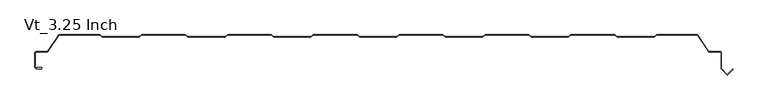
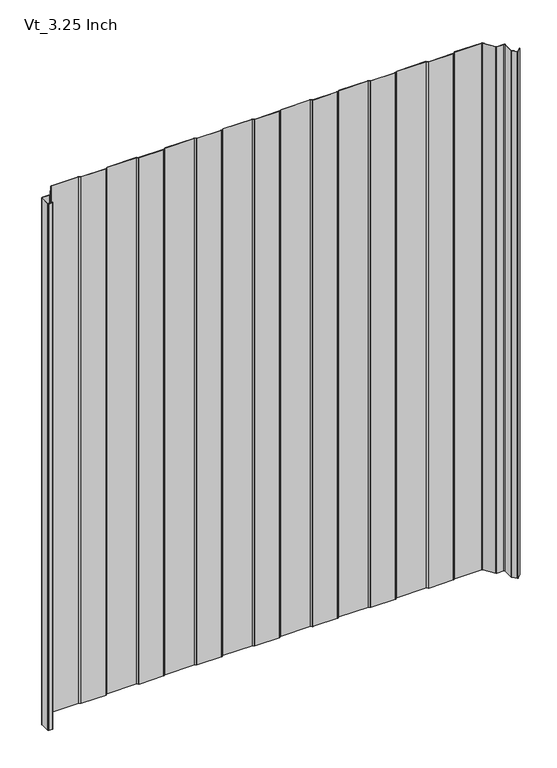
"""IFC4 building model written with IfcOpenShell, lengths in millimetres: plate geometry, KIP_R19_CP_KingSeam_Vt_Roof Panel : Vt_3.25 Inch."""

from ifc_helpers import new_model, si_unit, point, frame_2d, origin, origin_with_axes, place, context, project, spatial, polyline, circle_curve, trimmed, segment, composite_curve, outline, extrude, source, transform, mapped, element, save


def vt_3_25_inch_0ac85842(model_context):
    return source(origin(), model_context, "Body", "SweptSolid", [
        extrude(outline(composite_curve([segment(polyline([(353.2057294, -82.7658084), (349.7460358, -80.265881), (285.172478, -80.265881), (281.7127828, -82.765809)]), True, "CONTINUOUS"), segment(trimmed(circle_curve(frame_2d((280.8342564, -81.5500005)), 1.4999996), [point((281.7127828, -82.765809))], [point((280.833285, -83.0499998))], False, "CARTESIAN"), True, "CONTINUOUS"), segment(polyline([(280.833285, -83.0499998), (227.0842565, -83.0499998)]), True, "CONTINUOUS"), segment(trimmed(circle_curve(frame_2d((227.0842565, -81.5499998)), 1.5), [point((227.0842565, -83.0499998))], [point((226.2057297, -82.7658085))], False, "CARTESIAN"), True, "CONTINUOUS"), segment(polyline([(226.2057297, -82.7658085), (222.7460351, -80.2658804), (158.1724783, -80.2658804), (154.7127834, -82.7658085)]), True, "CONTINUOUS"), segment(trimmed(circle_curve(frame_2d((153.8342567, -81.5499998)), 1.4999999), [point((154.7127834, -82.7658085))], [point((153.8332853, -83.0499994))], False, "CARTESIAN"), True, "CONTINUOUS"), segment(polyline([(153.8332853, -83.0499994), (100.0842567, -83.0499994)]), True, "CONTINUOUS"), segment(trimmed(circle_curve(frame_2d((100.0842567, -81.5499995)), 1.4999999), [point((100.0842567, -83.0499994))], [point((99.20573, -82.7658082))], False, "CARTESIAN"), True, "CONTINUOUS"), segment(polyline([(99.20573, -82.7658082), (95.7460356, -80.2658804), (31.1724783, -80.2658804), (27.7127834, -82.7658085)]), True, "CONTINUOUS"), segment(trimmed(circle_curve(frame_2d((26.8342567, -81.5499998)), 1.5), [point((27.7127834, -82.7658085))], [point((26.8332853, -83.0499995))], False, "CARTESIAN"), True, "CONTINUOUS"), segment(polyline([(26.8332853, -83.0499995), (-26.9157433, -83.0499995)]), True, "CONTINUOUS"), segment(trimmed(circle_curve(frame_2d((-26.9157433, -81.5499995)), 1.5), [point((-26.9157433, -83.0499995))], [point((-27.79427, -82.7658082))], False, "CARTESIAN"), True, "CONTINUOUS"), segment(polyline([(-27.79427, -82.7658082), (-31.2539644, -80.2658804), (-95.8275217, -80.2658804), (-99.2872166, -82.7658085)]), True, "CONTINUOUS"), segment(trimmed(circle_curve(frame_2d((-100.1657433, -81.5499998)), 1.5), [point((-99.2872166, -82.7658085))], [point((-100.1667147, -83.0499995))], False, "CARTESIAN"), True, "CONTINUOUS"), segment(polyline([(-100.1667147, -83.0499995), (-153.9157432, -83.0499995)]), True, "CONTINUOUS"), segment(trimmed(circle_curve(frame_2d((-153.9157432, -81.5499995)), 1.5), [point((-153.9157432, -83.0499995))], [point((-154.79427, -82.7658082))], False, "CARTESIAN"), True, "CONTINUOUS"), segment(polyline([(-154.79427, -82.7658082), (-158.2539643, -80.2658804), (-222.8275216, -80.2658804), (-226.287216, -82.7658087)]), True, "CONTINUOUS"), segment(trimmed(circle_curve(frame_2d((-227.1657431, -81.5499998)), 1.5000003), [point((-226.287216, -82.7658087))], [point((-227.1667145, -83.0499999))], False, "CARTESIAN"), True, "CONTINUOUS"), segment(polyline([(-227.1667145, -83.0499999), (-280.9157431, -83.0499999)]), True, "CONTINUOUS"), segment(trimmed(circle_curve(frame_2d((-280.9157431, -81.5499998)), 1.5), [point((-280.9157431, -83.0499999))], [point((-281.7942699, -82.7658085))], False, "CARTESIAN"), True, "CONTINUOUS"), segment(polyline([(-281.7942699, -82.7658085), (-285.2539646, -80.2658804), (-349.8275214, -80.2658804), (-353.2872163, -82.7658085)]), True, "CONTINUOUS"), segment(trimmed(circle_curve(frame_2d((-354.165743, -81.5499999)), 1.4999999), [point((-353.2872163, -82.7658085))], [point((-354.1667144, -83.0499995))], False, "CARTESIAN"), True, "CONTINUOUS"), segment(polyline([(-354.1667144, -83.0499995), (-407.9157429, -83.0499995)]), True, "CONTINUOUS"), segment(trimmed(circle_curve(frame_2d((-407.9157429, -81.5499994)), 1.5000001), [point((-407.9157429, -83.0499995))], [point((-408.7942697, -82.7658081))], False, "CARTESIAN"), True, "CONTINUOUS"), segment(polyline([(-408.7942697, -82.7658081), (-412.2539635, -80.2658806), (-471.4278921, -80.2658806)]), True, "CONTINUOUS"), segment(trimmed(circle_curve(frame_2d((-471.4278921, -82.2658804)), 1.9999997), [point((-471.4278921, -80.2658806))], [point((-473.0959478, -81.1624361))], True, "CARTESIAN"), True, "CONTINUOUS"), segment(polyline([(-473.0959478, -81.1624361), (-488.2993864, -104.1451861)]), True, "CONTINUOUS"), segment(trimmed(circle_curve(frame_2d((-490.3844563, -102.7658807)), 2.4999999), [point((-488.2993864, -104.1451861))], [point((-490.3844563, -105.2658806))], False, "CARTESIAN"), True, "CONTINUOUS"), segment(polyline([(-490.3844563, -105.2658806), (-505.9407428, -105.2658806)]), True, "CONTINUOUS"), segment(trimmed(circle_curve(frame_2d((-505.9407428, -106.8658806)), 1.6), [point((-505.9407428, -105.2658806))], [point((-507.5407428, -106.8658806))], True, "CARTESIAN"), True, "CONTINUOUS"), segment(polyline([(-507.5407428, -106.8658806), (-507.5407428, -127.7169597)]), True, "CONTINUOUS"), segment(trimmed(circle_curve(frame_2d((-506.3507428, -127.7169597)), 1.19), [point((-507.5407428, -127.7169597))], [point((-507.1921999, -128.5584168))], True, "CARTESIAN"), True, "CONTINUOUS"), segment(polyline([(-507.1921999, -128.5584168), (-506.182179, -129.5684377)]), True, "CONTINUOUS"), segment(trimmed(circle_curve(frame_2d((-505.3407219, -128.7269807)), 1.19), [point((-506.182179, -129.5684377))], [point((-505.3407219, -129.9169807))], True, "CARTESIAN"), True, "CONTINUOUS"), segment(polyline([(-505.3407219, -129.9169807), (-498.6107428, -129.9169807)]), True, "CONTINUOUS"), segment(trimmed(circle_curve(frame_2d((-498.6107428, -129.5169807)), 0.4), [point((-498.6107428, -129.9169807))], [point((-498.6107428, -129.1169807))], True, "CARTESIAN"), True, "CONTINUOUS"), segment(polyline([(-498.6107428, -129.1169807), (-505.3407219, -129.1169807), (-505.3407219, -128.3169807), (-498.6107428, -128.3169807)]), True, "CONTINUOUS"), segment(trimmed(circle_curve(frame_2d((-498.6107428, -129.3669807)), 1.05), [point((-498.6107428, -128.3169807))], [point((-498.6107428, -130.4169807))], False, "CARTESIAN"), True, "CONTINUOUS"), segment(polyline([(-498.6107428, -130.4169807), (-505.3407219, -130.4169807)]), True, "CONTINUOUS"), segment(trimmed(circle_curve(frame_2d((-505.3407219, -128.7269807)), 1.69), [point((-505.3407219, -130.4169807))], [point((-506.5357325, -129.921991))], False, "CARTESIAN"), True, "CONTINUOUS"), segment(polyline([(-506.5357325, -129.921991), (-507.5457533, -128.91197)]), True, "CONTINUOUS"), segment(trimmed(circle_curve(frame_2d((-506.3507428, -127.7169597)), 1.6899998), [point((-507.5457533, -128.91197))], [point((-508.0407427, -127.7169597))], False, "CARTESIAN"), True, "CONTINUOUS"), segment(polyline([(-508.0407427, -127.7169597), (-508.0407427, -106.8658805)]), True, "CONTINUOUS"), segment(trimmed(circle_curve(frame_2d((-505.9407428, -106.8658805)), 2.0999998), [point((-508.0407427, -106.8658805))], [point((-505.9407428, -104.7658807))], False, "CARTESIAN"), True, "CONTINUOUS"), segment(polyline([(-505.9407428, -104.7658807), (-490.3844563, -104.7658807)]), True, "CONTINUOUS"), segment(trimmed(circle_curve(frame_2d((-490.3844563, -102.7658807)), 2.0), [point((-490.3844563, -104.7658807))], [point((-488.7164003, -103.869325))], True, "CARTESIAN"), True, "CONTINUOUS"), segment(polyline([(-488.7164003, -103.869325), (-473.512962, -80.8865749)]), True, "CONTINUOUS"), segment(trimmed(circle_curve(frame_2d((-471.4278921, -82.2658804)), 2.5), [point((-473.512962, -80.8865749))], [point((-471.4278921, -79.7658803))], False, "CARTESIAN"), True, "CONTINUOUS"), segment(polyline([(-471.4278921, -79.7658803), (-412.2539644, -79.7658803), (-408.7942697, -82.2658086)]), True, "CONTINUOUS"), segment(trimmed(circle_curve(frame_2d((-407.9157429, -81.0499998)), 1.5000002), [point((-408.7942697, -82.2658086))], [point((-407.9157429, -82.5499999))], True, "CARTESIAN"), True, "CONTINUOUS"), segment(polyline([(-407.9157429, -82.5499999), (-354.1657429, -82.5499999)]), True, "CONTINUOUS"), segment(trimmed(circle_curve(frame_2d((-354.1657429, -81.0499999)), 1.5), [point((-354.1657429, -82.5499999))], [point((-353.2872161, -82.2658086))], True, "CARTESIAN"), True, "CONTINUOUS"), segment(polyline([(-353.2872161, -82.2658086), (-349.8275214, -79.7658803), (-285.2539646, -79.7658803), (-281.7942699, -82.2658087)]), True, "CONTINUOUS"), segment(trimmed(circle_curve(frame_2d((-280.9157431, -81.0500001)), 1.5), [point((-281.7942699, -82.2658087))], [point((-280.9157431, -82.5500001))], True, "CARTESIAN"), True, "CONTINUOUS"), segment(polyline([(-280.9157431, -82.5500001), (-227.1657431, -82.5500001)]), True, "CONTINUOUS"), segment(trimmed(circle_curve(frame_2d((-227.1657431, -81.0500001)), 1.5), [point((-227.1657431, -82.5500001))], [point((-226.2872164, -82.2658088))], True, "CARTESIAN"), True, "CONTINUOUS"), segment(polyline([(-226.2872164, -82.2658088), (-222.8275211, -79.7658803), (-158.2539647, -79.7658803), (-154.79427, -82.2658086)]), True, "CONTINUOUS"), segment(trimmed(circle_curve(frame_2d((-153.9157433, -81.0499999)), 1.5), [point((-154.79427, -82.2658086))], [point((-153.9157433, -82.5499999))], True, "CARTESIAN"), True, "CONTINUOUS"), segment(polyline([(-153.9157433, -82.5499999), (-100.1657433, -82.5499999)]), True, "CONTINUOUS"), segment(trimmed(circle_curve(frame_2d((-100.1657433, -81.0500001)), 1.4999998), [point((-100.1657433, -82.5499999))], [point((-99.2872167, -82.2658087))], True, "CARTESIAN"), True, "CONTINUOUS"), segment(polyline([(-99.2872167, -82.2658087), (-95.8275213, -79.7658803), (-31.2539649, -79.7658803), (-27.7942701, -82.2658086)]), True, "CONTINUOUS"), segment(trimmed(circle_curve(frame_2d((-26.9157433, -81.0499999)), 1.5000001), [point((-27.7942701, -82.2658086))], [point((-26.9157433, -82.55))], True, "CARTESIAN"), True, "CONTINUOUS"), segment(polyline([(-26.9157433, -82.55), (26.8342567, -82.55)]), True, "CONTINUOUS"), segment(trimmed(circle_curve(frame_2d((26.8342567, -81.0500001)), 1.4999999), [point((26.8342567, -82.55))], [point((27.7127833, -82.2658087))], True, "CARTESIAN"), True, "CONTINUOUS"), segment(polyline([(27.7127833, -82.2658087), (31.1724787, -79.7658803), (95.7460351, -79.7658803), (99.20573, -82.2658084)]), True, "CONTINUOUS"), segment(trimmed(circle_curve(frame_2d((100.0842567, -81.0499998)), 1.4999999), [point((99.20573, -82.2658084))], [point((100.0842567, -82.5499997))], True, "CARTESIAN"), True, "CONTINUOUS"), segment(polyline([(100.0842567, -82.5499997), (153.8342567, -82.5499997)]), True, "CONTINUOUS"), segment(trimmed(circle_curve(frame_2d((153.8342567, -81.0499996)), 1.5), [point((153.8342567, -82.5499997))], [point((154.7127834, -82.2658084))], True, "CARTESIAN"), True, "CONTINUOUS"), segment(polyline([(154.7127834, -82.2658084), (158.1724783, -79.7658803), (222.7460351, -79.7658803), (226.2057297, -82.2658084)]), True, "CONTINUOUS"), segment(trimmed(circle_curve(frame_2d((227.0842565, -81.0499997)), 1.5), [point((226.2057297, -82.2658084))], [point((227.0842565, -82.5499997))], True, "CARTESIAN"), True, "CONTINUOUS"), segment(polyline([(227.0842565, -82.5499997), (280.8342564, -82.5499997)]), True, "CONTINUOUS"), segment(trimmed(circle_curve(frame_2d((280.8342564, -81.0500002)), 1.4999994), [point((280.8342564, -82.5499997))], [point((281.7127826, -82.2658086))], True, "CARTESIAN"), True, "CONTINUOUS"), segment(polyline([(281.7127826, -82.2658086), (285.1724789, -79.7658803), (349.7460348, -79.7658803), (353.2057295, -82.2658083)]), True, "CONTINUOUS"), segment(trimmed(circle_curve(frame_2d((354.0842562, -81.0499997)), 1.4999999), [point((353.2057295, -82.2658083))], [point((354.0842562, -82.5499996))], True, "CARTESIAN"), True, "CONTINUOUS"), segment(polyline([(354.0842562, -82.5499996), (407.8342561, -82.5499996)]), True, "CONTINUOUS"), segment(trimmed(circle_curve(frame_2d((407.8342561, -81.0499999)), 1.4999998), [point((407.8342561, -82.5499996))], [point((408.7127826, -82.2658084))], True, "CARTESIAN"), True, "CONTINUOUS"), segment(polyline([(408.7127826, -82.2658084), (412.1724777, -79.7658803), (471.346405, -79.7658803)]), True, "CONTINUOUS"), segment(trimmed(circle_curve(frame_2d((471.346405, -82.2658801)), 2.4999998), [point((471.346405, -79.7658803))], [point((473.4314747, -80.8865748))], False, "CARTESIAN"), True, "CONTINUOUS"), segment(polyline([(473.4314747, -80.8865748), (488.6349132, -103.869325)]), True, "CONTINUOUS"), segment(trimmed(circle_curve(frame_2d((490.3029691, -102.7658806)), 2.0), [point((488.6349132, -103.869325))], [point((490.3029691, -104.7658806))], True, "CARTESIAN"), True, "CONTINUOUS"), segment(polyline([(490.3029691, -104.7658806), (505.8592557, -104.7658806)]), True, "CONTINUOUS"), segment(trimmed(circle_curve(frame_2d((505.8592557, -106.8658807)), 2.1000001), [point((505.8592557, -104.7658806))], [point((507.9592557, -106.8658807))], False, "CARTESIAN"), True, "CONTINUOUS"), segment(polyline([(507.9592557, -106.8658807), (507.9592557, -129.8005141)]), True, "CONTINUOUS"), segment(trimmed(circle_curve(frame_2d((509.4592557, -129.8005141)), 1.5), [point((507.9592557, -129.8005141))], [point((508.3985956, -130.8611742))], True, "CARTESIAN"), True, "CONTINUOUS"), segment(polyline([(508.3985956, -130.8611742), (515.9184168, -138.3809954)]), True, "CONTINUOUS"), segment(trimmed(circle_curve(frame_2d((516.4443275, -137.3512712)), 1.15625), [point((515.9184168, -138.3809954))], [point((517.2619197, -138.1688634))], True, "CARTESIAN"), True, "CONTINUOUS"), segment(polyline([(517.2619197, -138.1688634), (524.6158302, -130.8149529), (525.1815156, -131.3806383), (517.8276051, -138.7345488)]), True, "CONTINUOUS"), segment(trimmed(circle_curve(frame_2d((516.6962342, -137.603178)), 1.6), [point((517.8276051, -138.7345488))], [point((515.5648634, -138.7345488))], False, "CARTESIAN"), True, "CONTINUOUS"), segment(polyline([(515.5648634, -138.7345488), (508.0450422, -131.2147276)]), True, "CONTINUOUS"), segment(trimmed(circle_curve(frame_2d((509.4592557, -129.8005141)), 2.0), [point((508.0450422, -131.2147276))], [point((507.4592557, -129.8005141))], False, "CARTESIAN"), True, "CONTINUOUS"), segment(polyline([(507.4592557, -129.8005141), (507.4592557, -106.8658807)]), True, "CONTINUOUS"), segment(trimmed(circle_curve(frame_2d((505.8592556, -106.8658807)), 1.6000001), [point((507.4592557, -106.8658807))], [point((505.8592556, -105.2658806))], True, "CARTESIAN"), True, "CONTINUOUS"), segment(polyline([(505.8592556, -105.2658806), (490.3029691, -105.2658806)]), True, "CONTINUOUS"), segment(trimmed(circle_curve(frame_2d((490.3029691, -102.7658806)), 2.4999999), [point((490.3029691, -105.2658806))], [point((488.2178993, -104.1451861))], False, "CARTESIAN"), True, "CONTINUOUS"), segment(polyline([(488.2178993, -104.1451861), (473.0144605, -81.162436)]), True, "CONTINUOUS"), segment(trimmed(circle_curve(frame_2d((471.346405, -82.2658801)), 1.9999995), [point((473.0144605, -81.162436))], [point((471.346405, -80.2658806))], True, "CARTESIAN"), True, "CONTINUOUS"), segment(polyline([(471.346405, -80.2658806), (412.1724777, -80.2658806), (408.7127828, -82.7658088)]), True, "CONTINUOUS"), segment(trimmed(circle_curve(frame_2d((407.8342561, -81.5500001)), 1.5), [point((408.7127828, -82.7658088))], [point((407.8332847, -83.0499997))], False, "CARTESIAN"), True, "CONTINUOUS"), segment(polyline([(407.8332847, -83.0499997), (354.0842561, -83.0499997)]), True, "CONTINUOUS"), segment(trimmed(circle_curve(frame_2d((354.0842561, -81.5499998)), 1.5), [point((354.0842561, -83.0499997))], [point((353.2057294, -82.7658084))], False, "CARTESIAN"), True, "CONTINUOUS")], self_intersect=False)), origin_with_axes(), (0.0, 0.0, 1.0), 1219.2),
    ])


if __name__ == "__main__":
    model = new_model("IFC4")
    model_context = context("Model", 3, world=origin())
    ifc_project = project(units=[si_unit("LENGTHUNIT", "METRE", prefix="MILLI")], contexts=[model_context])
    site = spatial("IfcSite", under=ifc_project)
    building = spatial("IfcBuilding", under=site)
    placement = place(None, origin())
    vt_3_25_inch_shape = vt_3_25_inch_0ac85842(model_context)
    element("IfcPlate", 1, ObjectType="KIP_R19_CP_KingSeam_Vt_Roof Panel : Vt_3.25 Inch", at=placement, inside=building, context=model_context, shape_type="MappedRepresentation", body=[
        mapped(vt_3_25_inch_shape, transform((0.0, 0.0, 0.0), x_axis=(1.0, 0.0, 0.0), y_axis=(0.0, 1.0, 0.0), z_axis=(0.0, 0.0, 1.0))),
    ])
    save(model, "model.ifc")
